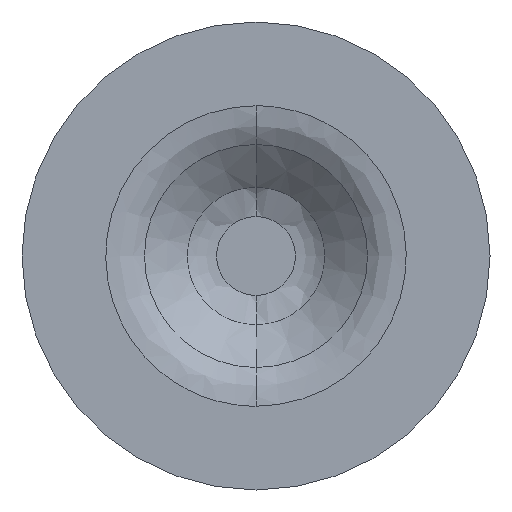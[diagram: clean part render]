
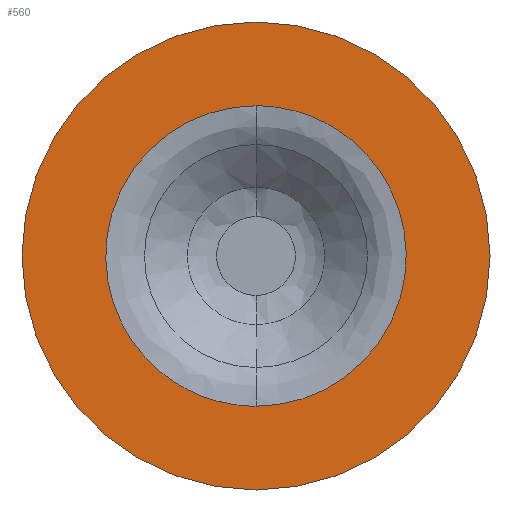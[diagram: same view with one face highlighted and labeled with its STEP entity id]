
A CAD part, front view. The second image highlights one B-rep face of the part: STEP entity #560.
In plain terms, the highlighted planar face has unit normal (0, -1, 0).
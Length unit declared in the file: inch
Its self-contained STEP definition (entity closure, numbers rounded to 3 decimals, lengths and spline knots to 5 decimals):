
#2 = VERTEX_POINT ( 'NONE', #656 ) ;
#11 = CARTESIAN_POINT ( 'NONE',  ( 0.80244, -0.196, 0.40122 ) ) ;
#21 = CARTESIAN_POINT ( 'NONE',  ( 0., -0.196, 0.625 ) ) ;
#24 = DIRECTION ( 'NONE',  ( 0., 1., 0. ) ) ;
#42 = DIRECTION ( 'NONE',  ( 0., 1., 0. ) ) ;
#45 = AXIS2_PLACEMENT_3D ( 'NONE', #296, #514, #130 ) ;
#77 = FACE_OUTER_BOUND ( 'NONE', #368, .T. ) ;
#79 = EDGE_CURVE ( 'NONE', #581, #692, #86, .T. ) ;
#86 = CIRCLE ( 'NONE', #323, 0.625 ) ;
#113 = ORIENTED_EDGE ( 'NONE', *, *, #329, .F. ) ;
#130 = DIRECTION ( 'NONE',  ( 0., 0., 1. ) ) ;
#192 = ORIENTED_EDGE ( 'NONE', *, *, #79, .F. ) ;
#198 = CIRCLE ( 'NONE', #45, 0.625 ) ;
#221 = CARTESIAN_POINT ( 'NONE',  ( 0.80244, -0.196, -0.40122 ) ) ;
#241 = CARTESIAN_POINT ( 'NONE',  ( 0., -0.196, 0.40122 ) ) ;
#254 = CARTESIAN_POINT ( 'NONE',  ( 0., -0.196, 0. ) ) ;
#280 = CARTESIAN_POINT ( 'NONE',  ( 0., -0.196, -0.40122 ) ) ;
#284 = CARTESIAN_POINT ( 'NONE',  ( 0.40122, -0.196, 0. ) ) ;
#296 = CARTESIAN_POINT ( 'NONE',  ( 0., -0.196, 0. ) ) ;
#312 = ORIENTED_EDGE ( 'NONE', *, *, #386, .F. ) ;
#316 =( BOUNDED_CURVE ( )  B_SPLINE_CURVE ( 3, ( #241, #349, #463, #578 ),
 .UNSPECIFIED., .F., .F. ) 
 B_SPLINE_CURVE_WITH_KNOTS ( ( 4, 4 ),
 ( 0., 1. ),
 .UNSPECIFIED. ) 
 CURVE ( )  GEOMETRIC_REPRESENTATION_ITEM ( )  RATIONAL_B_SPLINE_CURVE ( ( 1., 0.333, 0.333, 1. ) ) 
 REPRESENTATION_ITEM ( '' )  );
#323 = AXIS2_PLACEMENT_3D ( 'NONE', #254, #42, #570 ) ;
#329 = EDGE_CURVE ( 'NONE', #2, #542, #316, .T. ) ;
#340 = PLANE ( 'NONE',  #388 ) ;
#349 = CARTESIAN_POINT ( 'NONE',  ( -0.80244, -0.196, 0.40122 ) ) ;
#363 = ORIENTED_EDGE ( 'NONE', *, *, #480, .F. ) ;
#368 = EDGE_LOOP ( 'NONE', ( #192, #312 ) ) ;
#386 = EDGE_CURVE ( 'NONE', #692, #581, #198, .T. ) ;
#388 = AXIS2_PLACEMENT_3D ( 'NONE', #284, #24, #513 ) ;
#392 = FACE_BOUND ( 'NONE', #663, .T. ) ;
#421 = CARTESIAN_POINT ( 'NONE',  ( 0., -0.196, -0.40122 ) ) ;
#435 = CARTESIAN_POINT ( 'NONE',  ( 0., -0.196, 0.40122 ) ) ;
#454 =( BOUNDED_CURVE ( )  B_SPLINE_CURVE ( 3, ( #421, #221, #11, #435 ),
 .UNSPECIFIED., .F., .T. ) 
 B_SPLINE_CURVE_WITH_KNOTS ( ( 4, 4 ),
 ( 0., 1. ),
 .UNSPECIFIED. ) 
 CURVE ( )  GEOMETRIC_REPRESENTATION_ITEM ( )  RATIONAL_B_SPLINE_CURVE ( ( 1., 0.333, 0.333, 1. ) ) 
 REPRESENTATION_ITEM ( '' )  );
#463 = CARTESIAN_POINT ( 'NONE',  ( -0.80244, -0.196, -0.40122 ) ) ;
#480 = EDGE_CURVE ( 'NONE', #542, #2, #454, .T. ) ;
#513 = DIRECTION ( 'NONE',  ( 0., 0., 1. ) ) ;
#514 = DIRECTION ( 'NONE',  ( 0., 1., 0. ) ) ;
#542 = VERTEX_POINT ( 'NONE', #280 ) ;
#560 = ADVANCED_FACE ( 'NONE', ( #392, #77 ), #340, .F. ) ;
#570 = DIRECTION ( 'NONE',  ( 0., 0., 1. ) ) ;
#578 = CARTESIAN_POINT ( 'NONE',  ( 0., -0.196, -0.40122 ) ) ;
#581 = VERTEX_POINT ( 'NONE', #21 ) ;
#584 = CARTESIAN_POINT ( 'NONE',  ( 0., -0.196, -0.625 ) ) ;
#656 = CARTESIAN_POINT ( 'NONE',  ( 0., -0.196, 0.40122 ) ) ;
#663 = EDGE_LOOP ( 'NONE', ( #113, #363 ) ) ;
#692 = VERTEX_POINT ( 'NONE', #584 ) ;
